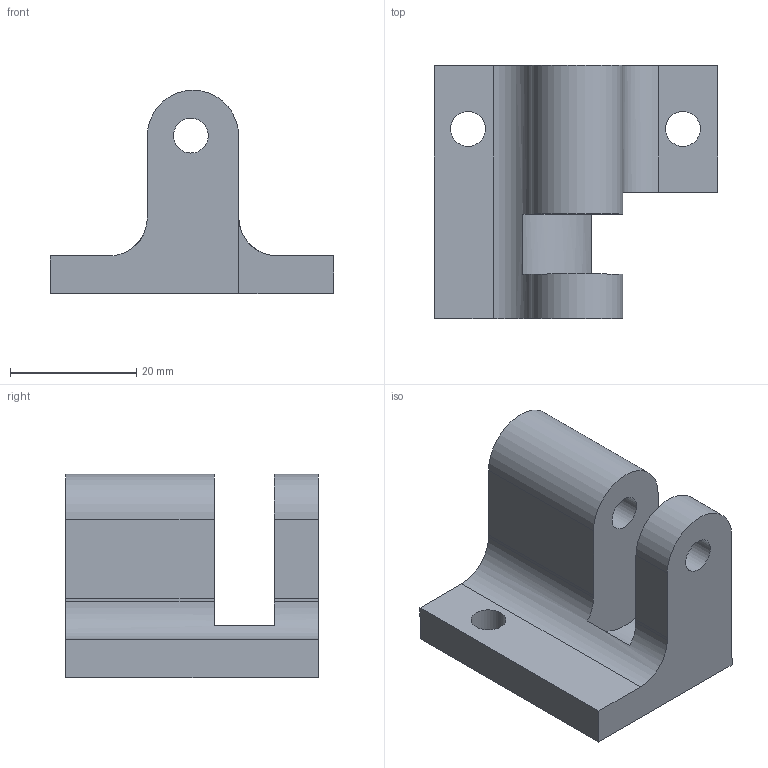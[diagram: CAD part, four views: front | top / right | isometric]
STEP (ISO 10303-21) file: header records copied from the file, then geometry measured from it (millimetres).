
FILE_DESCRIPTION(/* description */ (''),/* implementation_level */ '2;1');
FILE_NAME(/* name */ 'Z - Belt Tensioner Long x1 v2.step',/* time_stamp */ '2023-03-23T06:43:30-06:00',/* author */ (''),/* organization */ (''),/* preprocessor_version */ 'ST-DEVELOPER v19.2',/* originating_system */ 'Autodesk Translation Framework v11.17.0.187',/* authorisation */ '');
FILE_SCHEMA (('AUTOMOTIVE_DESIGN { 1 0 10303 214 3 1 1 }'));
Length unit declared in the file: millimetre
Products named in the file (2): Z - Belt Tensioner Long x1; Belt Tensioner
Assembly tree (1 placements, depth 2):
  Z - Belt Tensioner Long x1
    Belt Tensioner
Bounding box: 44.81 x 40 x 32.22 mm (x, y, z)
Volume: 18154.3 mm3; surface area: 7472.5 mm2
Topology: 1 solids, 1 shells, 39 faces, 108 edges, 72 vertices
Faces by surface type: plane 25, cylinder 13, bspline 1
Full cylindrical faces by diameter (mm): 5.5 x4
Entity records: 1644 total; most frequent: CARTESIAN_POINT 549, ORIENTED_EDGE 216, DIRECTION 216, EDGE_CURVE 108, LINE 76, VECTOR 76, VERTEX_POINT 72, AXIS2_PLACEMENT_3D 70
